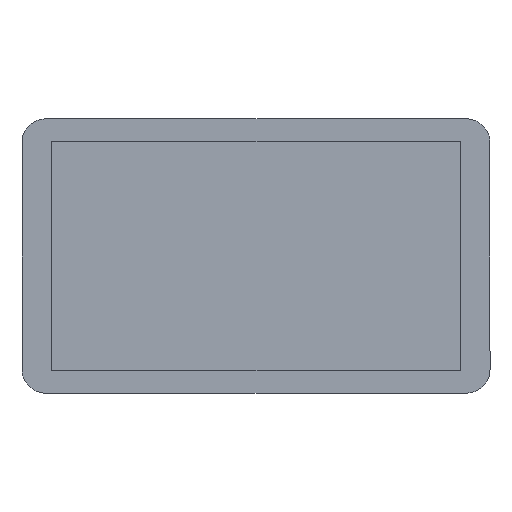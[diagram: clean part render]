
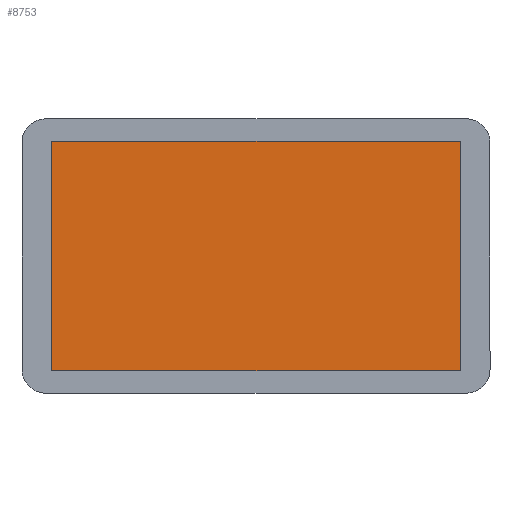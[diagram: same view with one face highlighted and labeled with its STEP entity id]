
A CAD part, top view. The second image highlights one B-rep face of the part: STEP entity #8753.
In plain terms, the highlighted planar face has unit normal (0, 0, 1).
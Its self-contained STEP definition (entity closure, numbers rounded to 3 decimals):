
#8753=ADVANCED_FACE('',(#15276),#95861,.T.);
#15276=FACE_OUTER_BOUND('',#21801,.T.);
#21801=EDGE_LOOP('',(#28640,#28641,#28642,#28643));
#28640=ORIENTED_EDGE('',*,*,#59604,.F.);
#28641=ORIENTED_EDGE('',*,*,#59605,.F.);
#28642=ORIENTED_EDGE('',*,*,#59606,.F.);
#28643=ORIENTED_EDGE('',*,*,#59607,.F.);
#59604=EDGE_CURVE('',#86528,#86529,#75104,.T.);
#59605=EDGE_CURVE('',#86530,#86528,#75105,.T.);
#59606=EDGE_CURVE('',#86531,#86530,#75106,.T.);
#59607=EDGE_CURVE('',#86529,#86531,#75107,.T.);
#75104=B_SPLINE_CURVE_WITH_KNOTS('',1,(#106588,#106589),.UNSPECIFIED.,.F.,
 .F.,(2,2),(3.,4.),.UNSPECIFIED.);
#75105=B_SPLINE_CURVE_WITH_KNOTS('',1,(#106590,#106591),.UNSPECIFIED.,.F.,
 .F.,(2,2),(2.,3.),.UNSPECIFIED.);
#75106=B_SPLINE_CURVE_WITH_KNOTS('',1,(#106592,#106593),.UNSPECIFIED.,.F.,
 .F.,(2,2),(1.,2.),.UNSPECIFIED.);
#75107=B_SPLINE_CURVE_WITH_KNOTS('',1,(#106594,#106595),.UNSPECIFIED.,.F.,
 .F.,(2,2),(0.,1.),.UNSPECIFIED.);
#86528=VERTEX_POINT('',#106576);
#86529=VERTEX_POINT('',#106577);
#86530=VERTEX_POINT('',#106578);
#86531=VERTEX_POINT('',#106579);
#95861=PLANE('',#99345);
#99345=AXIS2_PLACEMENT_3D('',#106567,#102812,$);
#102812=DIRECTION('',(0.,0.,1.));
#106567=CARTESIAN_POINT('',(86.375,-50.625,0.));
#106576=CARTESIAN_POINT('',(60.288,33.912,0.));
#106577=CARTESIAN_POINT('',(60.288,-33.912,0.));
#106578=CARTESIAN_POINT('',(-60.288,33.912,0.));
#106579=CARTESIAN_POINT('',(-60.288,-33.912,0.));
#106588=CARTESIAN_POINT('',(60.288,33.912,0.));
#106589=CARTESIAN_POINT('',(60.288,-33.912,0.));
#106590=CARTESIAN_POINT('',(-60.288,33.912,0.));
#106591=CARTESIAN_POINT('',(60.288,33.912,0.));
#106592=CARTESIAN_POINT('',(-60.288,-33.912,0.));
#106593=CARTESIAN_POINT('',(-60.288,33.912,0.));
#106594=CARTESIAN_POINT('',(60.288,-33.912,0.));
#106595=CARTESIAN_POINT('',(-60.288,-33.912,0.));
